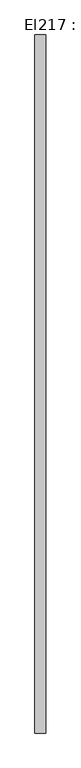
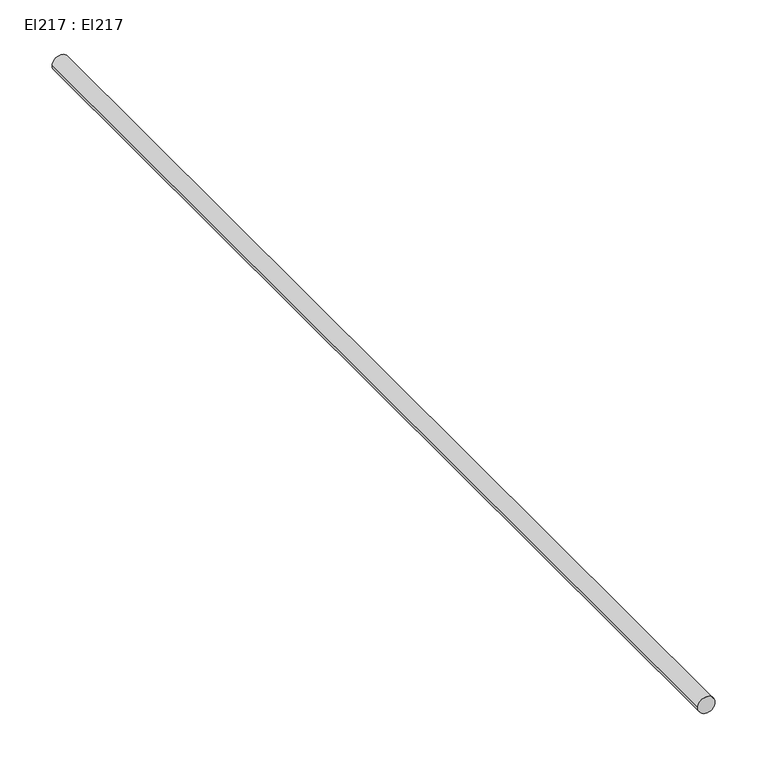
"""IFC4 building model written with IfcOpenShell, lengths in millimetres: cable carrier segment geometry, El217 : El217."""

import ifcopenshell
import ifcopenshell.guid

model = None  # the IFC model being written
_history = None  # IfcOwnerHistory: only IFC2X3 demands one
_inside = {}  # id of a spatial element -> (the spatial element, [elements in it])
_under = {}  # id of a project, library or spatial element -> (it, [spatial elements below it])
_declared = {}  # id of a project -> (the project, [libraries it declares])
_typed = {}  # id of a type object -> (the type object, [elements of that type])
_made_of = {}  # id of a material, layer set ... -> (it, [elements and type objects made of it])


def new_model(schema):
    """Start an empty IFC model of exactly this schema.

    Asked for "IFC4X3", IfcOpenShell would pick the latest addendum, in which some entities
    have other attributes; the version numbers below select the first issue.
    IFC2X3 requires an IfcOwnerHistory on every rooted entity: one is made here for all.
    """
    global model, _history
    if schema == "IFC4X3":
        model = ifcopenshell.file(schema_version=(4, 3, 0, 0))
    else:
        model = ifcopenshell.file(schema=schema)
    _inside.clear()
    _under.clear()
    _declared.clear()
    _typed.clear()
    _made_of.clear()
    _history = None
    if model.schema == "IFC2X3":
        org = make("IfcOrganization", Name="unknown")
        user = make(
            "IfcPersonAndOrganization",
            ThePerson=make("IfcPerson", FamilyName="unknown"),
            TheOrganization=org,
        )
        app = make(
            "IfcApplication",
            ApplicationDeveloper=org,
            Version="unknown",
            ApplicationFullName="unknown",
            ApplicationIdentifier="unknown",
        )
        _history = make(
            "IfcOwnerHistory",
            OwningUser=user,
            OwningApplication=app,
            ChangeAction="ADDED",
            CreationDate=0,
        )
    return model


def make(cls, **values):
    """One entity of the class cls with the attributes given. An attribute that is None is left unset."""
    return model.create_entity(
        cls, **{name: value for name, value in values.items() if value is not None}
    )


def rooted(cls, **values):
    """An entity with a GlobalId (a new one), such as an element, a storey or a relation."""
    return make(cls, GlobalId=ifcopenshell.guid.new(), OwnerHistory=_history, **values)


def si_unit(unit_type, name, prefix=None):
    """IfcSIUnit, for example si_unit("LENGTHUNIT", "METRE", prefix="MILLI")."""
    return make("IfcSIUnit", UnitType=unit_type, Prefix=prefix, Name=name)


def assignment(units):
    """IfcUnitAssignment: the units of a project."""
    return None if units is None else make("IfcUnitAssignment", Units=units)


def point(xyz):
    """IfcCartesianPoint."""
    return None if xyz is None else make("IfcCartesianPoint", Coordinates=xyz)


def direction(xyz):
    """IfcDirection."""
    return None if xyz is None else make("IfcDirection", DirectionRatios=xyz)


def frame(location, z_axis=None, x_axis=None):
    """IfcAxis2Placement3D, a coordinate frame: its origin and axes. An axis left out is left unset."""
    return make(
        "IfcAxis2Placement3D",
        Location=point(location),
        Axis=direction(z_axis),
        RefDirection=direction(x_axis),
    )


def frame_2d(location, x_axis=None):
    """IfcAxis2Placement2D, a coordinate frame in the plane: its origin and x axis."""
    return make(
        "IfcAxis2Placement2D", Location=point(location), RefDirection=direction(x_axis)
    )


def origin():
    """The frame at (0, 0, 0) with its axes left unset."""
    return frame((0.0, 0.0, 0.0))


def place(relative_to, where):
    """IfcLocalPlacement: puts the frame where relative to a parent placement (None: the world)."""
    return make(
        "IfcLocalPlacement", PlacementRelTo=relative_to, RelativePlacement=where
    )


def context(
    kind, dimensions, precision=None, world=None, true_north=None, identifier=None
):
    """IfcGeometricRepresentationContext, for example the 3D "Model" context."""
    return make(
        "IfcGeometricRepresentationContext",
        ContextIdentifier=identifier,
        ContextType=kind,
        CoordinateSpaceDimension=dimensions,
        Precision=precision,
        WorldCoordinateSystem=world,
        TrueNorth=true_north,
    )


def project(units=None, contexts=None):
    """IfcProject with its units and contexts."""
    return rooted(
        "IfcProject",
        Name="project",
        RepresentationContexts=contexts,
        UnitsInContext=assignment(units),
    )


def spatial(cls, under=None, at=None, **own):
    """A site, building, storey or space (cls), placed at a placement, below another one or the project."""
    s = rooted(cls, ObjectPlacement=at, **own)
    if under is not None:
        _under.setdefault(under.id(), (under, []))[1].append(s)
    return s


def circle_curve(where, radius):
    """IfcCircle in the frame where."""
    return make("IfcCircle", Position=where, Radius=radius)


def trimmed(basis, trim1, trim2, sense, master):
    """IfcTrimmedCurve: the piece of a basis curve between two trims."""
    return make(
        "IfcTrimmedCurve",
        BasisCurve=basis,
        Trim1=trim1,
        Trim2=trim2,
        SenseAgreement=sense,
        MasterRepresentation=master,
    )


def segment(curve, same_sense, transition):
    """IfcCompositeCurveSegment."""
    return make(
        "IfcCompositeCurveSegment",
        Transition=transition,
        SameSense=same_sense,
        ParentCurve=curve,
    )


def composite_curve(segments, self_intersect=None):
    """IfcCompositeCurve: segments joined end to end."""
    return make("IfcCompositeCurve", Segments=segments, SelfIntersect=self_intersect)


def outline(outer, holes=None, kind="AREA"):
    """IfcArbitraryClosedProfileDef: a profile drawn as a closed curve; with holes, ...WithVoids."""
    if holes is None:
        return make("IfcArbitraryClosedProfileDef", ProfileType=kind, OuterCurve=outer)
    return make(
        "IfcArbitraryProfileDefWithVoids",
        ProfileType=kind,
        OuterCurve=outer,
        InnerCurves=holes,
    )


def extrude(swept, where, along, depth):
    """IfcExtrudedAreaSolid: the profile swept, set in the frame where, extruded along a direction by depth."""
    return make(
        "IfcExtrudedAreaSolid",
        SweptArea=swept,
        Position=where,
        ExtrudedDirection=direction(along),
        Depth=depth,
    )


def shape(context_of_items, identifier, shape_type, items):
    """IfcShapeRepresentation: the items that make up one representation, for example the "Body"."""
    return make(
        "IfcShapeRepresentation",
        ContextOfItems=context_of_items,
        RepresentationIdentifier=identifier,
        RepresentationType=shape_type,
        Items=items,
    )


def source(mapping_origin, context_of_items, identifier, shape_type, items):
    """IfcRepresentationMap: a shape defined once, which mapped items show again and again."""
    return make(
        "IfcRepresentationMap",
        MappingOrigin=mapping_origin,
        MappedRepresentation=shape(context_of_items, identifier, shape_type, items),
    )


def transform(
    local_origin,
    x_axis=None,
    y_axis=None,
    z_axis=None,
    scale=None,
    scale2=None,
    scale3=None,
    uniform=True,
):
    """IfcCartesianTransformationOperator3D, or its non-uniform kind. x_axis, y_axis, z_axis: its Axis1, 2, 3."""
    if uniform:
        return make(
            "IfcCartesianTransformationOperator3D",
            Axis1=direction(x_axis),
            Axis2=direction(y_axis),
            LocalOrigin=point(local_origin),
            Scale=scale,
            Axis3=direction(z_axis),
        )
    return make(
        "IfcCartesianTransformationOperator3DnonUniform",
        Axis1=direction(x_axis),
        Axis2=direction(y_axis),
        LocalOrigin=point(local_origin),
        Scale=scale,
        Axis3=direction(z_axis),
        Scale2=scale2,
        Scale3=scale3,
    )


def mapped(mapping_source, mapping_target):
    """IfcMappedItem: shows the shape of a source again, moved by a transform."""
    return make(
        "IfcMappedItem", MappingSource=mapping_source, MappingTarget=mapping_target
    )


def made_of(thing, what):
    """Note that an element or type object is made of a material, layer set ...; save() writes the relation."""
    if what is not None:
        _made_of.setdefault(what.id(), (what, []))[1].append(thing)
    return thing


def element(
    cls,
    number,
    at=None,
    inside=None,
    cuts=None,
    type_object=None,
    material=None,
    context=None,
    identifier="Body",
    shape_type=None,
    held_by="IfcProductDefinitionShape",
    body=None,
    shapes=None,
    **own,
):
    """One element of the class cls, such as IfcWall. Its Tag is "e" and its number.

    at: its placement. inside: the storey or other place that contains it. cuts: it is an
    opening in that element (IfcRelVoidsElement). A single representation is given by context,
    identifier, shape_type and body (its items); several are given by shapes. held_by: the class
    of the entity that holds the representations. save() writes the other relations.
    """
    e = rooted(cls, Tag="e%d" % number, ObjectPlacement=at, **own)
    if body is not None:
        shapes = [shape(context, identifier, shape_type, body)]
    if shapes is not None:
        e.Representation = make(held_by, Representations=shapes)
    if inside is not None:
        _inside.setdefault(inside.id(), (inside, []))[1].append(e)
    if cuts is not None:
        rooted(
            "IfcRelVoidsElement", RelatingBuildingElement=cuts, RelatedOpeningElement=e
        )
    if type_object is not None:
        _typed.setdefault(type_object.id(), (type_object, []))[1].append(e)
    return made_of(e, material)


def aggregate(whole, parts):
    """IfcRelAggregates: a whole, such as a stair, and the parts it consists of."""
    return rooted("IfcRelAggregates", RelatingObject=whole, RelatedObjects=parts)


def save(model, path):
    """Write the relations noted so far, then the file.

    IfcRelAggregates (storeys below a building ...), IfcRelContainedInSpatialStructure (elements
    in a storey), IfcRelDefinesByType, IfcRelAssociatesMaterial and IfcRelDeclares: one each for
    every whole, place, type object, material and project.
    """
    for whole, parts in _under.values():
        aggregate(whole, parts)
    for where, things in _inside.values():
        rooted(
            "IfcRelContainedInSpatialStructure",
            RelatedElements=things,
            RelatingStructure=where,
        )
    for kind, things in _typed.values():
        rooted("IfcRelDefinesByType", RelatedObjects=things, RelatingType=kind)
    for what, things in _made_of.values():
        rooted("IfcRelAssociatesMaterial", RelatedObjects=things, RelatingMaterial=what)
    for by, libraries in _declared.values():
        rooted("IfcRelDeclares", RelatingContext=by, RelatedDefinitions=libraries)
    model.write(path)


def el217_el217_31618c8a(model_context):
    return source(origin(), model_context, "Body", "SweptSolid", [
        extrude(outline(composite_curve([segment(trimmed(circle_curve(frame_2d((1200.0, 3900.0)), 9.5), [point((1200.0, 3890.5))], [point((1200.0, 3909.5))], False, "CARTESIAN"), True, "CONTINUOUS"), segment(trimmed(circle_curve(frame_2d((1200.0, 3900.0)), 9.5), [point((1200.0, 3909.5))], [point((1200.0, 3890.5))], False, "CARTESIAN"), True, "CONTINUOUS")], self_intersect=False)), frame((0.0, 24841.509, 0.0), z_axis=(0.0, 1.0, 0.0), x_axis=(0.0, 0.0, 1.0)), (0.0, 0.0, 1.0), 1239.58),
    ])


if __name__ == "__main__":
    model = new_model("IFC4")
    model_context = context("Model", 3, world=origin())
    ifc_project = project(units=[si_unit("LENGTHUNIT", "METRE", prefix="MILLI")], contexts=[model_context])
    site = spatial("IfcSite", under=ifc_project)
    building = spatial("IfcBuilding", under=site)
    placement = place(None, origin())
    el217_el217_shape = el217_el217_31618c8a(model_context)
    element("IfcCableCarrierSegment", 1, ObjectType="El217 : El217", at=placement, inside=building, context=model_context, shape_type="MappedRepresentation", body=[
        mapped(el217_el217_shape, transform((0.0, 0.0, 0.0), x_axis=(1.0, 0.0, 0.0), y_axis=(0.0, 1.0, 0.0), z_axis=(0.0, 0.0, 1.0))),
    ])
    save(model, "model.ifc")
